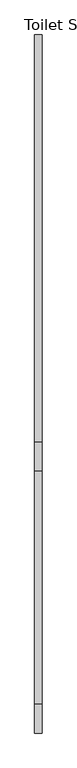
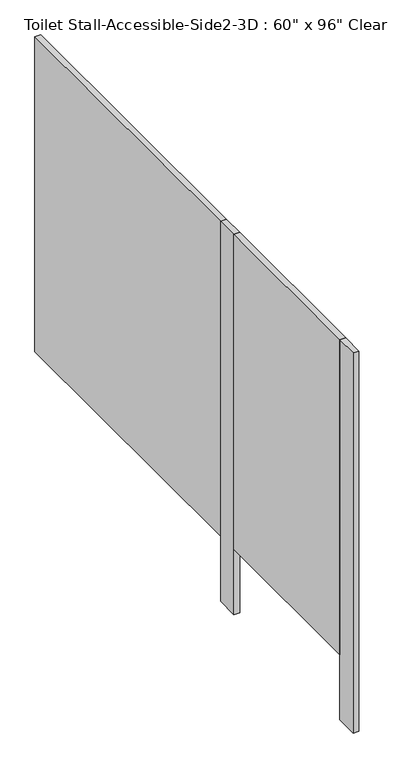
"""IFC4 building model written with IfcOpenShell, lengths in millimetres: proxy geometry."""

from ifc_helpers import new_model, si_unit, frame, origin, origin_with_axes, place, context, project, spatial, polyline, outline, extrude, source, transform, mapped, element, save


def proxy_b54b38c5(model_context):
    return source(origin(), model_context, "Body", "SweptSolid", [
        extrude(outline(polyline([(-661.8968462, -2428.875), (-687.2968462, -2428.875), (-687.2968462, -1616.075), (-661.8968462, -1616.075), (-661.8968462, -2428.875)])), frame((0.0, 0.0, 304.8), z_axis=(0.0, 0.0, 1.0), x_axis=(1.0, 0.0, 0.0)), (0.0, 0.0, 1.0), 1473.2),
        extrude(outline(polyline([(-661.8968462, -2530.475), (-687.2968462, -2530.475), (-687.2968462, -2428.875), (-661.8968462, -2428.875), (-661.8968462, -2530.475)])), origin_with_axes(), (0.0, 0.0, 1.0), 1778.0),
        extrude(outline(polyline([(-661.8968462, -1616.075), (-687.2968462, -1616.075), (-687.2968462, -1514.475), (-661.8968462, -1514.475), (-661.8968462, -1616.075)])), origin_with_axes(), (0.0, 0.0, 1.0), 1778.0),
        extrude(outline(polyline([(-687.2968462, -1514.475), (-687.2968462, -92.075), (-661.8968462, -92.075), (-661.8968462, -1514.475), (-687.2968462, -1514.475)])), frame((0.0, 0.0, 304.8), z_axis=(0.0, 0.0, 1.0), x_axis=(1.0, 0.0, 0.0)), (0.0, 0.0, 1.0), 1473.2),
    ])


if __name__ == "__main__":
    model = new_model("IFC4")
    model_context = context("Model", 3, world=origin())
    ifc_project = project(units=[si_unit("LENGTHUNIT", "METRE", prefix="MILLI")], contexts=[model_context])
    site = spatial("IfcSite", under=ifc_project)
    building = spatial("IfcBuilding", under=site)
    placement = place(None, origin())
    proxy_shape = proxy_b54b38c5(model_context)
    element("IfcBuildingElementProxy", 1, Name="Toilet Stall-Accessible-Side2-3D : 60\" x 96\" Clear", ObjectType="Toilet Stall-Accessible-Side2-3D : 60\" x 96\" Clear", at=placement, inside=building, context=model_context, shape_type="MappedRepresentation", body=[
        mapped(proxy_shape, transform((0.0, 0.0, 0.0), x_axis=(1.0, 0.0, 0.0), y_axis=(0.0, 1.0, 0.0), z_axis=(0.0, 0.0, 1.0))),
    ])
    save(model, "model.ifc")
